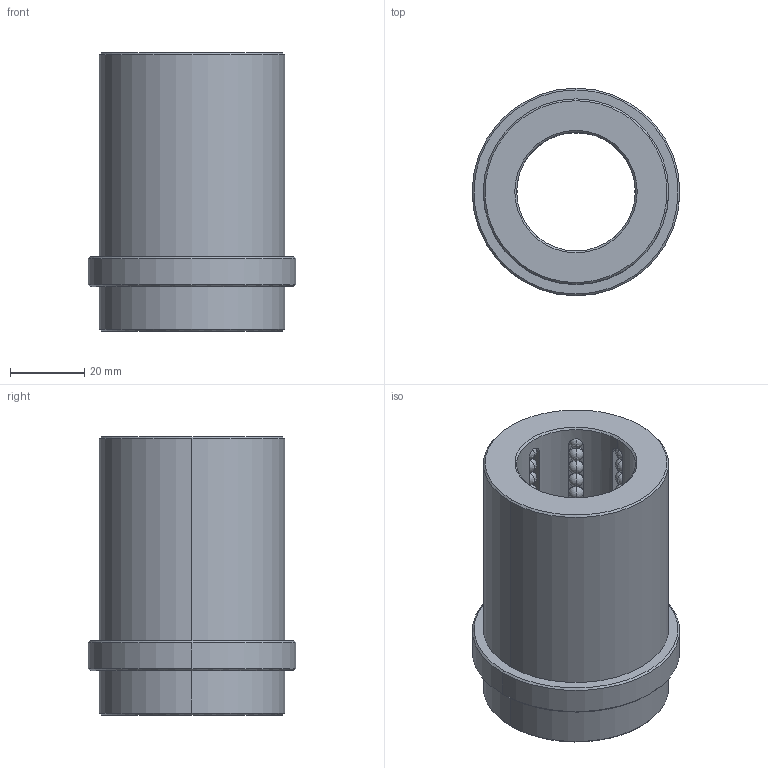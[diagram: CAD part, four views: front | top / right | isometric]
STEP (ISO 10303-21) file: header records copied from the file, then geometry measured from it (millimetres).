
FILE_DESCRIPTION(('CATIA V5 STEP Exchange'),'2;1');
FILE_NAME('C:\Users\Raffaele\Desktop\3D BOLEX\3D FILES CF BOLEX\2-BUSH REF 802\B8023263.stp','2019-06-19T13:54:17+00:00',('none'),('none'),'CATIA Version 5 Release 20 GA (IN-10)','CATIA V5 STEP AP203','none');
FILE_SCHEMA(('CONFIG_CONTROL_DESIGN'));
Length unit declared in the file: millimetre
Products named in the file (1): B8023263
Bounding box: 56 x 56 x 75 mm (x, y, z)
Volume: 86791.5 mm3; surface area: 33411.3 mm2
Topology: 129 solids, 129 shells, 588 faces, 1722 edges, 376 vertices
Faces by surface type: sphere 512, plane 28, cylinder 24, cone 24
Entity records: 11154 total; most frequent: CARTESIAN_POINT 2239, DIRECTION 1829, ORIENTED_EDGE 1396, AXIS2_PLACEMENT_3D 1144, EDGE_CURVE 698, EDGE_LOOP 598, ADVANCED_FACE 588, FACE_OUTER_BOUND 588
